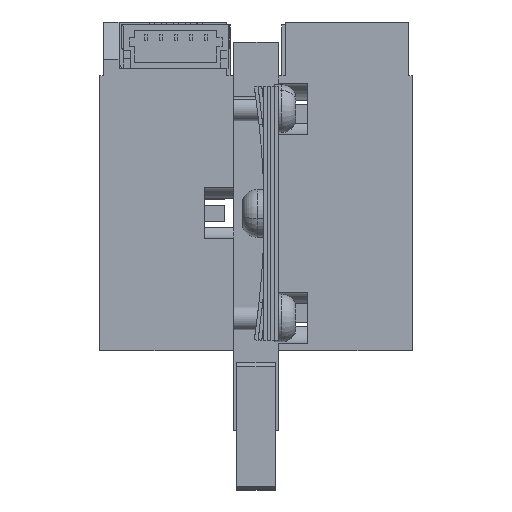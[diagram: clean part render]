
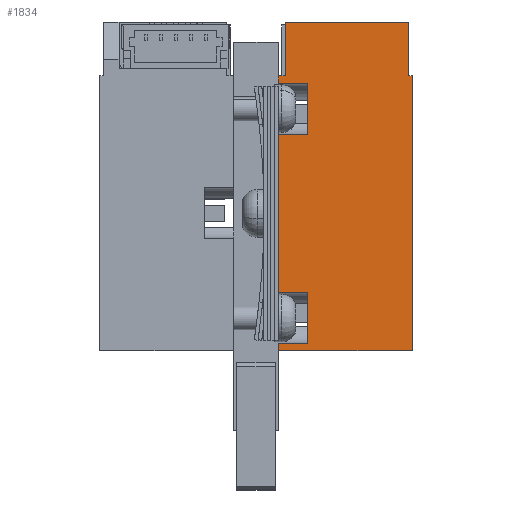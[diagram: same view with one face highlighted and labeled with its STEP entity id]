
A CAD part, left-side view. The second image highlights one B-rep face of the part: STEP entity #1834.
In plain terms, the highlighted planar face has unit normal (-1, 0, 0).
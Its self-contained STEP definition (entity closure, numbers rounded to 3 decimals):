
#24 = VERTEX_POINT ( 'NONE', #2465 ) ;
#342 = LINE ( 'NONE', #6688, #17977 ) ;
#546 = VECTOR ( 'NONE', #1065, 1000. ) ;
#578 = VECTOR ( 'NONE', #13232, 1000. ) ;
#778 = CARTESIAN_POINT ( 'NONE',  ( 0., 7., 3.9 ) ) ;
#1057 = CARTESIAN_POINT ( 'NONE',  ( 0., 0.25, 22. ) ) ;
#1065 = DIRECTION ( 'NONE',  ( 0., 0., 1. ) ) ;
#1144 = ORIENTED_EDGE ( 'NONE', *, *, #10768, .T. ) ;
#1274 = LINE ( 'NONE', #13027, #578 ) ;
#1498 = DIRECTION ( 'NONE',  ( 0., 1., 0. ) ) ;
#1703 = LINE ( 'NONE', #16049, #17114 ) ;
#1710 = CARTESIAN_POINT ( 'NONE',  ( 0., 0.25, 18.4 ) ) ;
#1834 = ADVANCED_FACE ( 'NONE', ( #7137 ), #19517, .F. ) ;
#1864 = EDGE_CURVE ( 'NONE', #1965, #19320, #13493, .T. ) ;
#1965 = VERTEX_POINT ( 'NONE', #11524 ) ;
#2017 = LINE ( 'NONE', #13559, #17793 ) ;
#2304 = DIRECTION ( 'NONE',  ( 0., 0., 1. ) ) ;
#2353 = LINE ( 'NONE', #3805, #20203 ) ;
#2465 = CARTESIAN_POINT ( 'NONE',  ( 0., 0., 18.4 ) ) ;
#2892 = VERTEX_POINT ( 'NONE', #6574 ) ;
#3805 = CARTESIAN_POINT ( 'NONE',  ( 0., 0., 0. ) ) ;
#3861 = DIRECTION ( 'NONE',  ( 0., -1., 0. ) ) ;
#3946 = VERTEX_POINT ( 'NONE', #10746 ) ;
#3971 = LINE ( 'NONE', #10324, #546 ) ;
#4078 = EDGE_CURVE ( 'NONE', #24, #7278, #1703, .T. ) ;
#4131 = EDGE_CURVE ( 'NONE', #10782, #14147, #7726, .T. ) ;
#4505 = EDGE_CURVE ( 'NONE', #14954, #3946, #3971, .T. ) ;
#4545 = ORIENTED_EDGE ( 'NONE', *, *, #7548, .F. ) ;
#4697 = VERTEX_POINT ( 'NONE', #14570 ) ;
#4792 = CARTESIAN_POINT ( 'NONE',  ( 0., 7., 14.5 ) ) ;
#4946 = CARTESIAN_POINT ( 'NONE',  ( 0., 8.5, 22. ) ) ;
#4997 = ORIENTED_EDGE ( 'NONE', *, *, #8507, .T. ) ;
#5129 = ORIENTED_EDGE ( 'NONE', *, *, #4078, .F. ) ;
#5304 = ORIENTED_EDGE ( 'NONE', *, *, #4131, .T. ) ;
#6483 = VECTOR ( 'NONE', #16582, 1000. ) ;
#6555 = ORIENTED_EDGE ( 'NONE', *, *, #4505, .F. ) ;
#6567 = CARTESIAN_POINT ( 'NONE',  ( 0., 8.96, 14.5 ) ) ;
#6574 = CARTESIAN_POINT ( 'NONE',  ( 0., 8.96, 3.9 ) ) ;
#6688 = CARTESIAN_POINT ( 'NONE',  ( 0., 8.96, 22. ) ) ;
#6712 = CARTESIAN_POINT ( 'NONE',  ( 0., 8.5, 18.4 ) ) ;
#6778 = LINE ( 'NONE', #11565, #19793 ) ;
#6838 = DIRECTION ( 'NONE',  ( 1., 0., 0. ) ) ;
#7137 = FACE_OUTER_BOUND ( 'NONE', #14243, .T. ) ;
#7160 = AXIS2_PLACEMENT_3D ( 'NONE', #16292, #6838, #19825 ) ;
#7278 = VERTEX_POINT ( 'NONE', #13882 ) ;
#7421 = ORIENTED_EDGE ( 'NONE', *, *, #11426, .F. ) ;
#7482 = VECTOR ( 'NONE', #16604, 1000. ) ;
#7540 = CARTESIAN_POINT ( 'NONE',  ( 0., 7., 17.9 ) ) ;
#7548 = EDGE_CURVE ( 'NONE', #12066, #2892, #2017, .T. ) ;
#7726 = LINE ( 'NONE', #18848, #8480 ) ;
#7832 = VERTEX_POINT ( 'NONE', #6567 ) ;
#7945 = EDGE_CURVE ( 'NONE', #2892, #7832, #6778, .T. ) ;
#8348 = DIRECTION ( 'NONE',  ( 0., 1., 0. ) ) ;
#8383 = DIRECTION ( 'NONE',  ( 0., 0., 1. ) ) ;
#8460 = LINE ( 'NONE', #4946, #16783 ) ;
#8480 = VECTOR ( 'NONE', #1498, 1000. ) ;
#8507 = EDGE_CURVE ( 'NONE', #1965, #7278, #2353, .T. ) ;
#8533 = VECTOR ( 'NONE', #18894, 1000. ) ;
#8889 = DIRECTION ( 'NONE',  ( 0., -1., 0. ) ) ;
#9082 = CARTESIAN_POINT ( 'NONE',  ( 0., 8.96, 0.5 ) ) ;
#9121 = CARTESIAN_POINT ( 'NONE',  ( 0., 7., 3.9 ) ) ;
#9135 = ORIENTED_EDGE ( 'NONE', *, *, #10411, .F. ) ;
#9545 = DIRECTION ( 'NONE',  ( 0., 1., 0. ) ) ;
#9646 = LINE ( 'NONE', #16000, #17227 ) ;
#9831 = DIRECTION ( 'NONE',  ( 0., 0., -1. ) ) ;
#9956 = VERTEX_POINT ( 'NONE', #13217 ) ;
#10111 = LINE ( 'NONE', #14897, #10498 ) ;
#10194 = VERTEX_POINT ( 'NONE', #1057 ) ;
#10233 = VERTEX_POINT ( 'NONE', #19338 ) ;
#10324 = CARTESIAN_POINT ( 'NONE',  ( 0., 7., 14.5 ) ) ;
#10411 = EDGE_CURVE ( 'NONE', #3946, #10233, #11931, .T. ) ;
#10498 = VECTOR ( 'NONE', #18213, 1000. ) ;
#10746 = CARTESIAN_POINT ( 'NONE',  ( 0., 7., 17.9 ) ) ;
#10768 = EDGE_CURVE ( 'NONE', #9956, #10782, #8460, .T. ) ;
#10782 = VERTEX_POINT ( 'NONE', #6712 ) ;
#10869 = EDGE_CURVE ( 'NONE', #12066, #4697, #12013, .T. ) ;
#10908 = ORIENTED_EDGE ( 'NONE', *, *, #13008, .T. ) ;
#11426 = EDGE_CURVE ( 'NONE', #10194, #14531, #10111, .T. ) ;
#11524 = CARTESIAN_POINT ( 'NONE',  ( 0., 8.96, 0. ) ) ;
#11565 = CARTESIAN_POINT ( 'NONE',  ( 0., 8.96, 22. ) ) ;
#11574 = VECTOR ( 'NONE', #3861, 1000. ) ;
#11689 = ORIENTED_EDGE ( 'NONE', *, *, #13628, .T. ) ;
#11788 = DIRECTION ( 'NONE',  ( 0., 0., 1. ) ) ;
#11931 = LINE ( 'NONE', #7540, #7482 ) ;
#11999 = ORIENTED_EDGE ( 'NONE', *, *, #1864, .F. ) ;
#12013 = LINE ( 'NONE', #778, #6483 ) ;
#12031 = EDGE_CURVE ( 'NONE', #14531, #24, #14124, .T. ) ;
#12066 = VERTEX_POINT ( 'NONE', #9121 ) ;
#13008 = EDGE_CURVE ( 'NONE', #4697, #19320, #1274, .T. ) ;
#13027 = CARTESIAN_POINT ( 'NONE',  ( 0., 7., 0.5 ) ) ;
#13130 = LINE ( 'NONE', #18093, #11574 ) ;
#13158 = VECTOR ( 'NONE', #8383, 1000. ) ;
#13217 = CARTESIAN_POINT ( 'NONE',  ( 0., 8.5, 22. ) ) ;
#13232 = DIRECTION ( 'NONE',  ( 0., 1., 0. ) ) ;
#13493 = LINE ( 'NONE', #18256, #13158 ) ;
#13559 = CARTESIAN_POINT ( 'NONE',  ( 0., 7., 3.9 ) ) ;
#13628 = EDGE_CURVE ( 'NONE', #14954, #7832, #9646, .T. ) ;
#13882 = CARTESIAN_POINT ( 'NONE',  ( 0., 0., 0. ) ) ;
#14124 = LINE ( 'NONE', #20469, #8533 ) ;
#14147 = VERTEX_POINT ( 'NONE', #16694 ) ;
#14243 = EDGE_LOOP ( 'NONE', ( #11999, #4997, #5129, #15305, #7421, #15348, #1144, #5304, #15753, #9135, #6555, #11689, #15778, #4545, #16791, #10908 ) ) ;
#14531 = VERTEX_POINT ( 'NONE', #1710 ) ;
#14570 = CARTESIAN_POINT ( 'NONE',  ( 0., 7., 0.5 ) ) ;
#14897 = CARTESIAN_POINT ( 'NONE',  ( 0., 0.25, 22. ) ) ;
#14954 = VERTEX_POINT ( 'NONE', #4792 ) ;
#15305 = ORIENTED_EDGE ( 'NONE', *, *, #12031, .F. ) ;
#15348 = ORIENTED_EDGE ( 'NONE', *, *, #20150, .F. ) ;
#15743 = DIRECTION ( 'NONE',  ( 0., 0., -1. ) ) ;
#15753 = ORIENTED_EDGE ( 'NONE', *, *, #15994, .F. ) ;
#15778 = ORIENTED_EDGE ( 'NONE', *, *, #7945, .F. ) ;
#15994 = EDGE_CURVE ( 'NONE', #10233, #14147, #342, .T. ) ;
#16000 = CARTESIAN_POINT ( 'NONE',  ( 0., 7., 14.5 ) ) ;
#16049 = CARTESIAN_POINT ( 'NONE',  ( 0., 0., 22. ) ) ;
#16292 = CARTESIAN_POINT ( 'NONE',  ( 0., 0., 22. ) ) ;
#16582 = DIRECTION ( 'NONE',  ( 0., 0., -1. ) ) ;
#16604 = DIRECTION ( 'NONE',  ( 0., 1., 0. ) ) ;
#16694 = CARTESIAN_POINT ( 'NONE',  ( 0., 8.96, 18.4 ) ) ;
#16783 = VECTOR ( 'NONE', #9831, 1000. ) ;
#16791 = ORIENTED_EDGE ( 'NONE', *, *, #10869, .T. ) ;
#17114 = VECTOR ( 'NONE', #15743, 1000. ) ;
#17227 = VECTOR ( 'NONE', #9545, 1000. ) ;
#17793 = VECTOR ( 'NONE', #8348, 1000. ) ;
#17977 = VECTOR ( 'NONE', #11788, 1000. ) ;
#18093 = CARTESIAN_POINT ( 'NONE',  ( 0., 0., 22. ) ) ;
#18213 = DIRECTION ( 'NONE',  ( 0., 0., -1. ) ) ;
#18256 = CARTESIAN_POINT ( 'NONE',  ( 0., 8.96, 22. ) ) ;
#18848 = CARTESIAN_POINT ( 'NONE',  ( 0., -2.884, 18.4 ) ) ;
#18894 = DIRECTION ( 'NONE',  ( 0., -1., 0. ) ) ;
#19320 = VERTEX_POINT ( 'NONE', #9082 ) ;
#19338 = CARTESIAN_POINT ( 'NONE',  ( 0., 8.96, 17.9 ) ) ;
#19517 = PLANE ( 'NONE',  #7160 ) ;
#19793 = VECTOR ( 'NONE', #2304, 1000. ) ;
#19825 = DIRECTION ( 'NONE',  ( 0., 0., -1. ) ) ;
#20150 = EDGE_CURVE ( 'NONE', #9956, #10194, #13130, .T. ) ;
#20203 = VECTOR ( 'NONE', #8889, 1000. ) ;
#20469 = CARTESIAN_POINT ( 'NONE',  ( 0., 0.25, 18.4 ) ) ;
